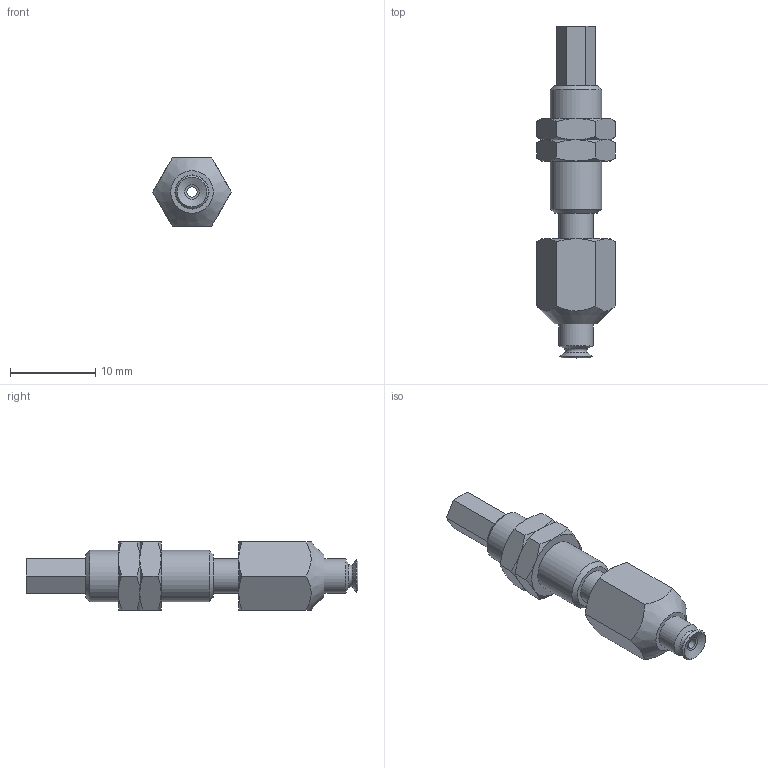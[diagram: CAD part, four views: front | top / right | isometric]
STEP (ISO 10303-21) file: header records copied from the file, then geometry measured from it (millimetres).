
FILE_DESCRIPTION(('STEP AP203'),'1');
FILE_NAME('.stp','2025-08-27T05:26:45',(' '),(' '),'Spatial InterOp 3D',' ',' ');
FILE_SCHEMA(('CONFIG_CONTROL_DESIGN'));
Length unit declared in the file: millimetre
Products named in the file (6): BNABPFTS-3.5A-3-※; ADAPTER; NAPFTS-2A-3-MBODY; Nut-3.5A-3-s; NAPFTS-3.5A-3-FBODY; BPFG-3.5A-※
Assembly tree (6 placements, depth 2):
  BNABPFTS-3.5A-3-※
    ADAPTER
    NAPFTS-2A-3-MBODY
    Nut-3.5A-3-s  x2
    NAPFTS-3.5A-3-FBODY
    BPFG-3.5A-※
Bounding box: 9.24 x 39 x 8 mm (x, y, z)
Volume: 1225.1 mm3; surface area: 1804.1 mm2
Topology: 6 solids, 6 shells, 110 faces, 231 edges, 137 vertices
Faces by surface type: plane 46, cone 42, cylinder 14, torus 7, bspline 1
Full cylindrical faces by diameter (mm): 1.2 x3, 2 x2, 2.459 x1, 3 x2, 4 x3, 5.188 x2, 6 x1
Entity records: 2599 total; most frequent: CARTESIAN_POINT 631, DIRECTION 354, ORIENTED_EDGE 288, AXIS2_PLACEMENT_3D 159, EDGE_CURVE 144, EDGE_LOOP 132, FACE_OUTER_BOUND 108, VERTEX_POINT 102
